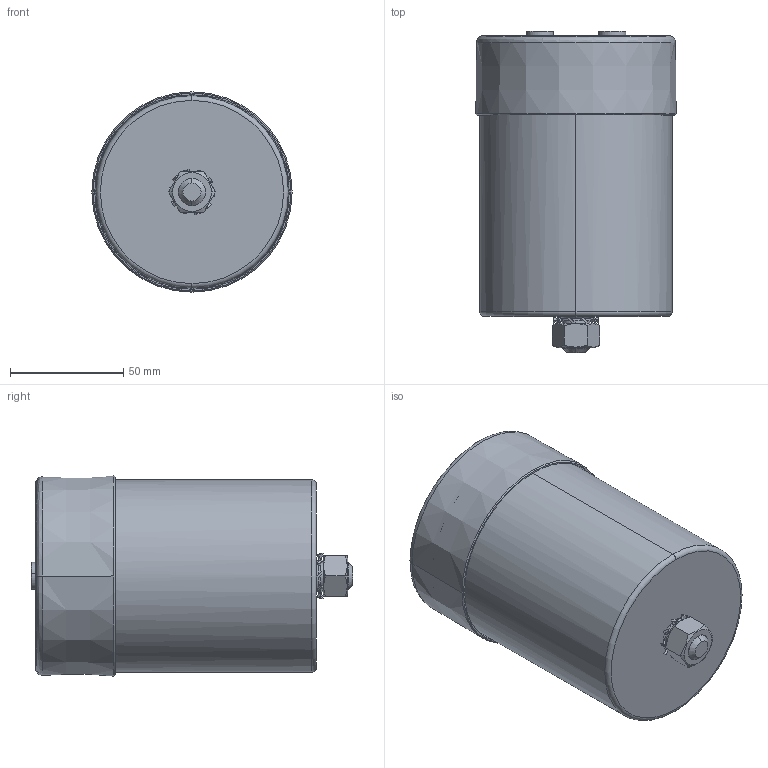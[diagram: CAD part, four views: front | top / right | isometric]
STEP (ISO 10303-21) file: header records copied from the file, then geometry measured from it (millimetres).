
FILE_DESCRIPTION (( 'STEP AP203' ), '1' );
FILE_NAME ('B25620Bx_85x124_126.STEP', '2021-07-01T02:00:33', ( '' ), ( '' ), 'SwSTEP 2.0', 'SolidWorks 2017', '' );
FILE_SCHEMA (( 'CONFIG_CONTROL_DESIGN' ));
Length unit declared in the file: millimetre
Products named in the file (1): B25620Bx_85x124_126
Bounding box: 88.5 x 142 x 88.5 mm (x, y, z)
Volume: 76314.9 mm3; surface area: 115322.7 mm2
Topology: 4 solids, 7 shells, 401 faces, 1027 edges, 642 vertices
Faces by surface type: bspline 124, cylinder 114, plane 97, cone 52, torus 14
Entity records: 15845 total; most frequent: CARTESIAN_POINT 6858, ORIENTED_EDGE 2026, DIRECTION 1621, EDGE_CURVE 1013, VERTEX_POINT 642, AXIS2_PLACEMENT_3D 642, EDGE_LOOP 443, ADVANCED_FACE 401
